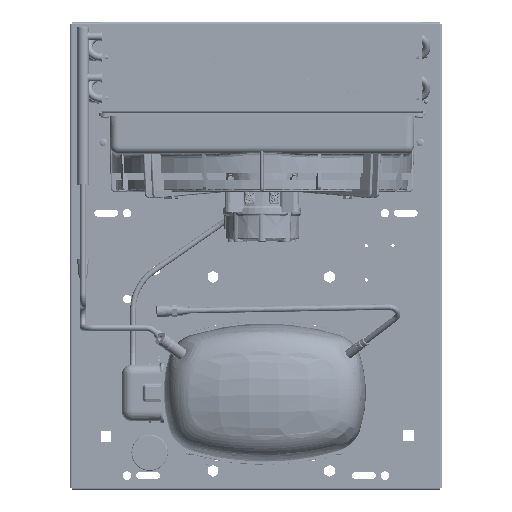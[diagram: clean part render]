
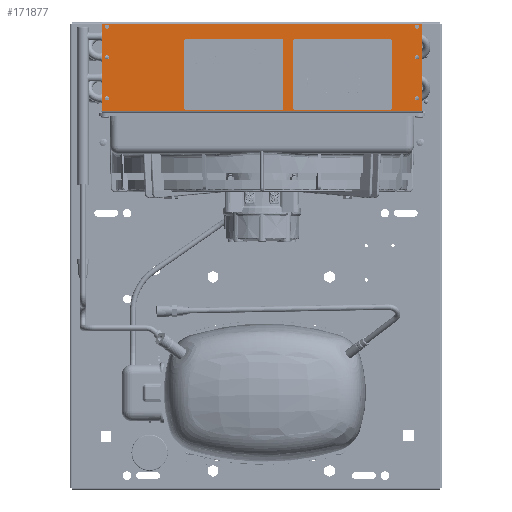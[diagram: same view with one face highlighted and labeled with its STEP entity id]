
A CAD part, top view. The second image highlights one B-rep face of the part: STEP entity #171877.
In plain terms, the highlighted planar face has unit normal (0, 0, 1).
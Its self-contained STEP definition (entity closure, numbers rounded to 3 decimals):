
#13360=CIRCLE('',#206136,2.25);
#13362=CIRCLE('',#206139,2.25);
#13364=CIRCLE('',#206142,2.25);
#13366=CIRCLE('',#206145,2.25);
#13368=CIRCLE('',#206148,2.25);
#13370=CIRCLE('',#206151,2.25);
#23682=ORIENTED_EDGE('',*,*,#74592,.T.);
#23683=ORIENTED_EDGE('',*,*,#74593,.F.);
#23684=ORIENTED_EDGE('',*,*,#74594,.F.);
#23685=ORIENTED_EDGE('',*,*,#74595,.T.);
#23686=ORIENTED_EDGE('',*,*,#74591,.F.);
#23687=ORIENTED_EDGE('',*,*,#74589,.F.);
#23688=ORIENTED_EDGE('',*,*,#74587,.F.);
#23689=ORIENTED_EDGE('',*,*,#74585,.F.);
#23690=ORIENTED_EDGE('',*,*,#74583,.F.);
#23691=ORIENTED_EDGE('',*,*,#74581,.F.);
#74581=EDGE_CURVE('',#100525,#100525,#13360,.T.);
#74583=EDGE_CURVE('',#100527,#100527,#13362,.T.);
#74585=EDGE_CURVE('',#100529,#100529,#13364,.T.);
#74587=EDGE_CURVE('',#100531,#100531,#13366,.T.);
#74589=EDGE_CURVE('',#100533,#100533,#13368,.T.);
#74591=EDGE_CURVE('',#100535,#100535,#13370,.T.);
#74592=EDGE_CURVE('',#100536,#100537,#117156,.T.);
#74593=EDGE_CURVE('',#100538,#100537,#117157,.T.);
#74594=EDGE_CURVE('',#100539,#100538,#117158,.T.);
#74595=EDGE_CURVE('',#100539,#100536,#117159,.T.);
#100525=VERTEX_POINT('',#265655);
#100527=VERTEX_POINT('',#265660);
#100529=VERTEX_POINT('',#265665);
#100531=VERTEX_POINT('',#265670);
#100533=VERTEX_POINT('',#265675);
#100535=VERTEX_POINT('',#265680);
#100536=VERTEX_POINT('',#265683);
#100537=VERTEX_POINT('',#265684);
#100538=VERTEX_POINT('',#265686);
#100539=VERTEX_POINT('',#265688);
#117156=LINE('',#265682,#129150);
#117157=LINE('',#265685,#129151);
#117158=LINE('',#265687,#129152);
#117159=LINE('',#265689,#129153);
#129150=VECTOR('',#223766,1000.);
#129151=VECTOR('',#223767,1000.);
#129152=VECTOR('',#223768,1000.);
#129153=VECTOR('',#223769,1000.);
#142388=EDGE_LOOP('',(#23682,#23683,#23684,#23685));
#142389=EDGE_LOOP('',(#23686));
#142390=EDGE_LOOP('',(#23687));
#142391=EDGE_LOOP('',(#23688));
#142392=EDGE_LOOP('',(#23689));
#142393=EDGE_LOOP('',(#23690));
#142394=EDGE_LOOP('',(#23691));
#155298=FACE_BOUND('',#142388,.T.);
#155299=FACE_BOUND('',#142389,.T.);
#155300=FACE_BOUND('',#142390,.T.);
#155301=FACE_BOUND('',#142391,.T.);
#155302=FACE_BOUND('',#142392,.T.);
#155303=FACE_BOUND('',#142393,.T.);
#155304=FACE_BOUND('',#142394,.T.);
#166652=PLANE('',#206152);
#171877=ADVANCED_FACE('',(#155298,#155299,#155300,#155301,#155302,#155303,
#155304),#166652,.F.);
#206136=AXIS2_PLACEMENT_3D('',#265654,#223732,#223733);
#206139=AXIS2_PLACEMENT_3D('',#265659,#223738,#223739);
#206142=AXIS2_PLACEMENT_3D('',#265664,#223744,#223745);
#206145=AXIS2_PLACEMENT_3D('',#265669,#223750,#223751);
#206148=AXIS2_PLACEMENT_3D('',#265674,#223756,#223757);
#206151=AXIS2_PLACEMENT_3D('',#265679,#223762,#223763);
#206152=AXIS2_PLACEMENT_3D('',#265681,#223764,#223765);
#223732=DIRECTION('',(0.,0.,1.));
#223733=DIRECTION('',(0.,1.,0.));
#223738=DIRECTION('',(0.,0.,1.));
#223739=DIRECTION('',(0.,1.,0.));
#223744=DIRECTION('',(0.,0.,1.));
#223745=DIRECTION('',(0.,1.,0.));
#223750=DIRECTION('',(0.,0.,1.));
#223751=DIRECTION('',(0.,1.,0.));
#223756=DIRECTION('',(0.,0.,1.));
#223757=DIRECTION('',(0.,1.,0.));
#223762=DIRECTION('',(0.,0.,1.));
#223763=DIRECTION('',(0.,1.,0.));
#223764=DIRECTION('',(0.,0.,-1.));
#223765=DIRECTION('',(-1.,0.,0.));
#223766=DIRECTION('',(1.,0.,0.));
#223767=DIRECTION('',(0.,-1.,0.));
#223768=DIRECTION('',(1.,0.,0.));
#223769=DIRECTION('',(0.,-1.,0.));
#265654=CARTESIAN_POINT('',(42.5,162.5,0.));
#265655=CARTESIAN_POINT('',(42.5,164.75,0.));
#265659=CARTESIAN_POINT('',(42.5,-162.5,0.));
#265660=CARTESIAN_POINT('',(42.5,-160.25,0.));
#265664=CARTESIAN_POINT('',(-32.5,-162.5,0.));
#265665=CARTESIAN_POINT('',(-32.5,-160.25,0.));
#265669=CARTESIAN_POINT('',(-32.5,162.5,0.));
#265670=CARTESIAN_POINT('',(-32.5,164.75,0.));
#265674=CARTESIAN_POINT('',(10.5,-162.5,0.));
#265675=CARTESIAN_POINT('',(10.5,-160.25,0.));
#265679=CARTESIAN_POINT('',(10.5,162.5,0.));
#265680=CARTESIAN_POINT('',(10.5,164.75,0.));
#265681=CARTESIAN_POINT('',(-47.5,167.5,0.));
#265682=CARTESIAN_POINT('',(-47.5,-167.5,0.));
#265683=CARTESIAN_POINT('',(-45.5,-167.5,0.));
#265684=CARTESIAN_POINT('',(45.5,-167.5,0.));
#265685=CARTESIAN_POINT('',(45.5,167.5,0.));
#265686=CARTESIAN_POINT('',(45.5,167.5,0.));
#265687=CARTESIAN_POINT('',(-47.5,167.5,0.));
#265688=CARTESIAN_POINT('',(-45.5,167.5,0.));
#265689=CARTESIAN_POINT('',(-45.5,167.5,0.));
